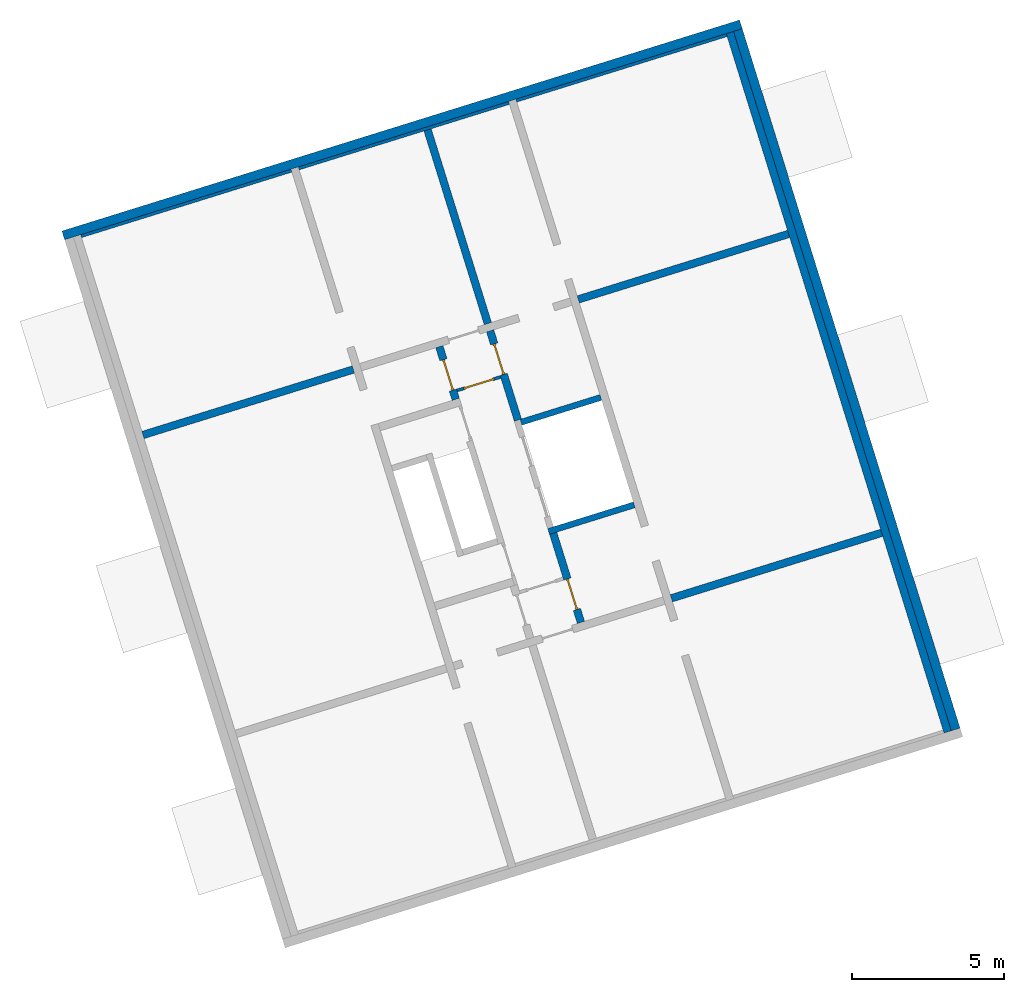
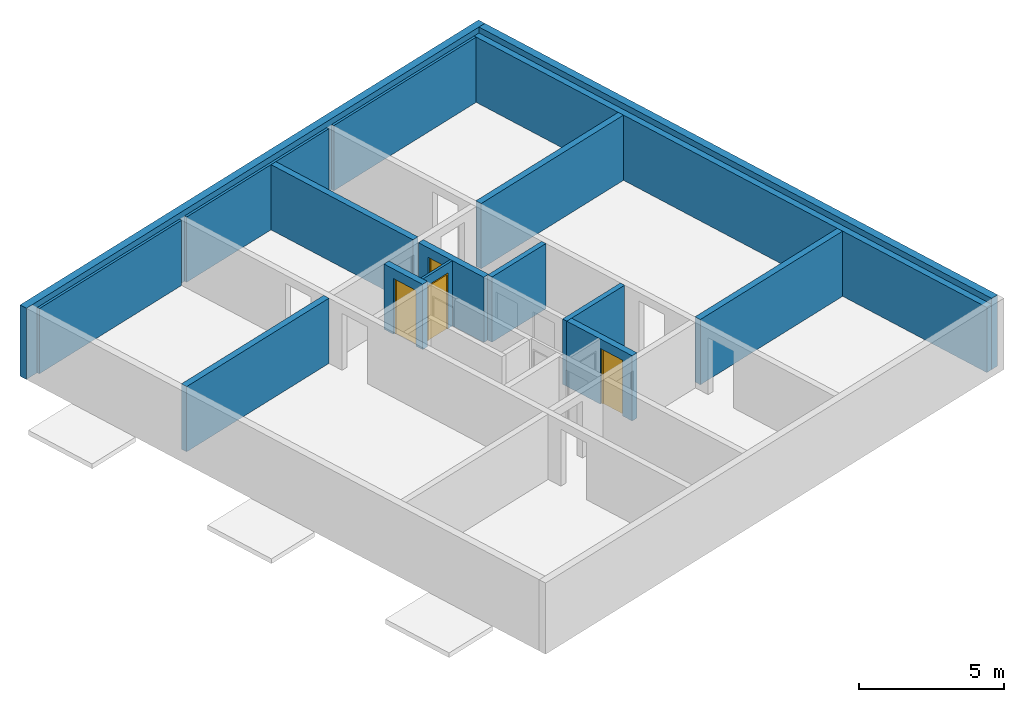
# One storey, part 2 of 3: 16 walls, 4 doors, 4 openings.
"""IFC4 building model written with IfcOpenShell, lengths in metres."""

from ifc_helpers import new_model, entity, si_unit, converted_unit, direction, frame, origin, place, context, subcontext, project, spatial, indexed_curve, outline, extrude, polygons, source, transform, mapped, material, constituent, constituent_set, type_object, type_shapes, element, fill, save


model = new_model("IFC4")

# Units and contexts
model_context = context("Model", 3, precision=1e-05, world=origin(), true_north=direction((6.12323399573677e-17, 1.0)))
body_context = subcontext(model_context, "Body", "Model", "MODEL_VIEW")
ifc_project = project(units=[si_unit("LENGTHUNIT", "METRE"), si_unit("AREAUNIT", "SQUARE_METRE"), si_unit("VOLUMEUNIT", "CUBIC_METRE"), converted_unit("PLANEANGLEUNIT", "DEGREE", entity("IfcPlaneAngleMeasure", 0.0174532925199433), si_unit("PLANEANGLEUNIT", "RADIAN"), dimensions=[0, 0, 0, 0, 0, 0, 0])], contexts=[model_context])

# Site, building, storey
site_placement = place(None, frame((13.1347999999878, 11.9886000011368, 0.0), z_axis=(0.0, 0.0, 1.0), x_axis=(0.954770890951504, 0.297342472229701, 0.0)))
site = spatial("IfcSite", under=ifc_project, at=site_placement, Name="Schiehaven", CompositionType="ELEMENT")
building_placement = place(site_placement, origin())
building = spatial("IfcBuilding", under=site, at=building_placement, Name="VORM huis", CompositionType="ELEMENT")
storey_placement = place(building_placement, frame((0.0, 0.0, 24.9)))
storey = spatial("IfcBuildingStorey", under=building, at=storey_placement, Name="08 achtste verdieping", CompositionType="ELEMENT", Elevation=24.9)

# Walls
ifc_material_1 = material(Name="beton_gewapend_ihw", Category="Miscellaneous")
wall_type_1 = type_object("IfcWallType", Name="Basic Wall:28_WA_skelet_wand 250mm_gen", PredefinedType="STANDARD")
wall_1_placement = place(storey_placement, frame((80.0, 5.0, 0.0), z_axis=(0.0, 0.0, 1.0), x_axis=(0.0, 1.0, 0.0)))
element("IfcWall", 1, at=wall_1_placement, inside=storey, type_object=wall_type_1, material=ifc_material_1, Name="Constructieve wand", ObjectType="Wand", PredefinedType="NOTDEFINED", context=body_context, shape_type="SweptSolid", body=[
    extrude(outline(indexed_curve([(24.1, 0.125000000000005), (1.84706995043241e-16, 0.125000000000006), (-1.84706995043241e-16, -0.125000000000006), (24.1, -0.125000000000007), (24.1, 0.125000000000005)], self_intersect=False)), origin(), (0.0, 0.0, 1.0), 2.75),
])
ifc_material_2 = material(Name="ntb_ntb_ntb", Category="Miscellaneous")
wall_type_2 = type_object("IfcWallType", Name="Basic Wall:21_WA_gevel_binnenspouwwand 100mm_gen", PredefinedType="STANDARD")
wall_2_placement = place(storey_placement, frame((79.8750000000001, 29.0499999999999, 0.0), z_axis=(0.0, 0.0, 1.0), x_axis=(-1.0, 0.0, 0.0)))
element("IfcWall", 2, at=wall_2_placement, inside=storey, type_object=wall_type_2, material=ifc_material_2, Name="Binnenspouwblad", ObjectType="Wand", PredefinedType="NOTDEFINED", context=body_context, shape_type="SweptSolid", body=[
    extrude(outline(indexed_curve([(7.24999999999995, 0.0500000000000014), (-2.83038752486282e-17, 0.0500000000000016), (2.83038752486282e-17, -0.0500000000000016), (7.24999999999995, -0.0500000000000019), (7.24999999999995, 0.0500000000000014)], self_intersect=False)), origin(), (0.0, 0.0, 1.0), 2.75),
])
wall_3_placement = place(storey_placement, frame((65.1250000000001, 29.0499999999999, 0.0)))
element("IfcWall", 3, at=wall_3_placement, inside=storey, type_object=wall_type_2, material=ifc_material_2, Name="Binnenspouwblad", ObjectType="Wand", PredefinedType="NOTDEFINED", context=body_context, shape_type="SweptSolid", body=[
    extrude(outline(indexed_curve([(7.24999999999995, 0.0500000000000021), (-1.82497125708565e-16, 0.0500000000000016), (1.82497125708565e-16, -0.0500000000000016), (7.24999999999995, -0.0500000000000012), (7.24999999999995, 0.0500000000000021)], self_intersect=False)), origin(), (0.0, 0.0, 1.0), 2.75),
])
wall_4_placement = place(storey_placement, frame((64.8750000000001, 29.0499999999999, 0.0), z_axis=(0.0, 0.0, 1.0), x_axis=(-1.0, 0.0, 0.0)))
element("IfcWall", 4, at=wall_4_placement, inside=storey, type_object=wall_type_2, material=ifc_material_2, Name="Binnenspouwblad", ObjectType="Wand", PredefinedType="NOTDEFINED", context=body_context, shape_type="SweptSolid", body=[
    extrude(outline(indexed_curve([(7.24999999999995, 0.0500000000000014), (-2.83038752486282e-17, 0.0500000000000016), (2.83038752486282e-17, -0.0500000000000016), (7.24999999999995, -0.0500000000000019), (7.24999999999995, 0.0500000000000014)], self_intersect=False)), origin(), (0.0, 0.0, 1.0), 2.75),
])
wall_type_3 = type_object("IfcWallType", Name="Basic Wall: 300mm_gen", PredefinedType="STANDARD")
wall_5_placement = place(storey_placement, frame((80.2750000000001, 5.0, 0.0), z_axis=(0.0, 0.0, 1.0), x_axis=(0.0, 1.0, 0.0)))
element("IfcWall", 5, at=wall_5_placement, inside=storey, type_object=wall_type_3, material=ifc_material_2, Name="Gevelwand", ObjectType="Wand", PredefinedType="NOTDEFINED", context=body_context, shape_type="SweptSolid", body=[
    extrude(outline(indexed_curve([(24.1, 0.150000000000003), (-2.29983128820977e-16, 0.150000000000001), (2.29983128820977e-16, -0.150000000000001), (24.1, -0.149999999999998), (24.1, 0.150000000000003)], self_intersect=False)), origin(), (0.0, 0.0, 1.0), 3.0),
])
wall_6_placement = place(storey_placement, frame((80.4250000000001, 29.2499999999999, 0.0), z_axis=(0.0, 0.0, 1.0), x_axis=(-1.0, 0.0, 0.0)))
element("IfcWall", 6, at=wall_6_placement, inside=storey, type_object=wall_type_3, material=ifc_material_2, Name="Gevelwand", ObjectType="Wand", PredefinedType="NOTDEFINED", context=body_context, shape_type="SweptSolid", body=[
    extrude(outline(indexed_curve([(23.35, 0.150000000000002), (-2.29983128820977e-16, 0.150000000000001), (2.29983128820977e-16, -0.150000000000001), (23.35, -0.149999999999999), (23.35, 0.150000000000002)], self_intersect=False)), origin(), (0.0, 0.0, 1.0), 3.0),
])
ifc_material_3 = material(Name="beton_gewapend_prefab-element", Category="Miscellaneous")
wall_type_4 = type_object("IfcWallType", Name="Basic Wall:28_WA_skelet_wand 200mm_gen", PredefinedType="STANDARD")
wall_7_placement = place(storey_placement, frame((72.3750000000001, 15.1999999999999, 0.0), z_axis=(0.0, 0.0, 1.0), x_axis=(-1.0, 0.0, 0.0)))
element("IfcWall", 7, at=wall_7_placement, inside=storey, type_object=wall_type_4, material=ifc_material_3, Name="Constructieve wand", ObjectType="Wand", PredefinedType="NOTDEFINED", context=body_context, shape_type="SweptSolid", body=[
    extrude(outline(indexed_curve([(2.95000000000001, 0.0999999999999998), (-2.97399835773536e-17, 0.0999999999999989), (2.97399835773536e-17, -0.0999999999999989), (2.95000000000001, -0.099999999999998), (2.95000000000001, 0.0999999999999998)], self_intersect=False)), origin(), (0.0, 0.0, 1.0), 2.75),
])
wall_8_placement = place(storey_placement, frame((69.6250000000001, 18.8999999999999, 0.0)))
element("IfcWall", 8, at=wall_8_placement, inside=storey, type_object=wall_type_4, material=ifc_material_3, Name="Constructieve wand", ObjectType="Wand", PredefinedType="NOTDEFINED", context=body_context, shape_type="SweptSolid", body=[
    extrude(outline(indexed_curve([(2.75, 0.0999999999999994), (-1.75746575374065e-16, 0.100000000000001), (1.75746575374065e-16, -0.100000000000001), (2.75, -0.100000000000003), (2.75, 0.0999999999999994)], self_intersect=False)), origin(), (0.0, 0.0, 1.0), 2.75),
])

# Wall, opening, door
wall_type_5 = type_object("IfcWallType", Name="Basic Wall:22_WA_afbouw_binnenwand 250mm_gen", PredefinedType="STANDARD")
wall_9_placement = place(storey_placement, frame((67.8000000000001, 20.2599999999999, 0.0), z_axis=(0.0, 0.0, 1.0), x_axis=(0.0, 1.0, 0.0)))
wall_9 = element("IfcWall", 9, at=wall_9_placement, inside=storey, type_object=wall_type_5, material=ifc_material_2, Name="Binnenwand", ObjectType="Wand", PredefinedType="NOTDEFINED", context=body_context, shape_type="Tessellation", body=[
    polygons([(0.0, -0.124999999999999, 0.0), (0.215000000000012, -0.125000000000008, 0.0), (0.315000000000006, -0.124999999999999, 0.0), (0.315000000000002, -0.124999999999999, 2.34999999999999), (1.36500000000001, -0.125000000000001, 2.34999999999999), (1.36500000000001, -0.125000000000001, 0.0), (1.81499999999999, -0.125000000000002, 0.0), (1.81499999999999, -0.125000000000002, 2.75), (0.315000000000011, -0.125000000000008, 2.75), (0.215000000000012, -0.125000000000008, 2.75), (0.0, -0.124999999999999, 2.75), (0.315000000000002, 0.124999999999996, 2.34999999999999), (0.315000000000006, 0.124999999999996, 0.0), (0.0, 0.124999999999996, 0.0), (0.0, 0.124999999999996, 2.75), (1.81499999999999, 0.124999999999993, 2.75), (1.81499999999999, 0.124999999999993, 0.0), (1.36500000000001, 0.124999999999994, 0.0), (1.36500000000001, 0.124999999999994, 2.34999999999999)], [[[1, 2, 3, 4, 5, 6, 7, 8, 9, 10, 11]], [[12, 13, 14, 15, 16, 17, 18, 19]], [[14, 13, 3, 2, 1]], [[8, 7, 17, 16]], [[11, 10, 9, 8, 16, 15]], [[1, 11, 15, 14]], [[6, 5, 19, 18]], [[4, 3, 13, 12]], [[5, 4, 12, 19]], [[18, 17, 7, 6]]], closed=True),
])
opening_1_placement = place(wall_9_placement, frame((1.36500000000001, 0.124999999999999, 0.0)))
opening_1 = element("IfcOpeningElement", 10, at=opening_1_placement, cuts=wall_9, Name="Woningtoegangsdeur", PredefinedType="OPENING", context=body_context, shape_type="SweptSolid", body=[
    extrude(outline(indexed_curve([(2.34999999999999, 3.29504974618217e-30), (2.34999999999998, 1.05), (0.0, 1.05), (2.16573425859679e-15, 3.29504974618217e-30), (2.34999999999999, 3.29504974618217e-30)], self_intersect=False)), frame((0.0, 0.0, 0.0), z_axis=(0.0, -1.0, 0.0), x_axis=(0.0, 0.0, 1.0)), (0.0, 0.0, 1.0), 0.25),
])
ifc_material_4 = material(Name="PD_a_binnenwandopeningen", Category="Miscellaneous")
ifc_constituent_1 = constituent(ifc_material_4, Name="PD_a_binnenwandopeningen", Category="Miscellaneous")
ifc_material_5 = material(Name="metaal_aluminium_ntb", Category="Miscellaneous")
ifc_constituent_2 = constituent(ifc_material_5, Name="metaal_aluminium_ntb", Category="Miscellaneous")
ifc_constituent_set_1 = constituent_set(constituents=[ifc_constituent_1, ifc_constituent_2])
ifc_constituent_3 = constituent(ifc_material_4, Name="PD_a_binnenwandopeningen", Category="Miscellaneous")
ifc_constituent_4 = constituent(ifc_material_5, Name="Panel", Category="Miscellaneous")
ifc_constituent_set_2 = constituent_set(constituents=[ifc_constituent_3, ifc_constituent_4])
door_type_1 = type_object("IfcDoorType", Name="32_DO_binnendeur enkel:woningtoegangsdeur", OperationType="REVOLVING", PredefinedType="DOOR", material=ifc_constituent_set_2)
shared_shape_1 = source(origin(), body_context, "Body", "SweptSolid", [
    extrude(outline(indexed_curve([(0.475, -1.16249999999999), (0.525000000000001, -1.16249999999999), (0.525000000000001, 1.18749999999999), (-0.525000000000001, 1.18749999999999), (-0.525000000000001, -1.16249999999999), (-0.475, -1.16249999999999), (-0.475, 1.13749999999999), (0.475, 1.13749999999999), (0.475, -1.16249999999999)], self_intersect=False)), frame((0.525000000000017, 0.174999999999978, 1.16249999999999), z_axis=(0.0, -1.0, 0.0), x_axis=(1.0, 0.0, 0.0)), (0.0, 0.0, 1.0), 0.1),
    extrude(outline(indexed_curve([(-0.475, -0.025), (0.475, -0.025), (0.475, 0.025), (-0.475, 0.025), (-0.475, -0.025)], self_intersect=False)), frame((0.525000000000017, 0.12499999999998, 0.0)), (0.0, 0.0, 1.0), 2.29999999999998),
])
type_shapes(door_type_1, [shared_shape_1])
door_1_placement = place(opening_1_placement, frame((0.0, 0.0, 0.0), z_axis=(0.0, 0.0, 1.0), x_axis=(-1.0, 0.0, 0.0)))
door_1 = element("IfcDoor", 11, at=door_1_placement, inside=storey, type_object=door_type_1, material=ifc_constituent_set_1, Name="Woningtoegangsdeur", ObjectType="Deur", OperationType="REVOLVING", OverallHeight=2.34999999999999, OverallWidth=1.05, PredefinedType="DOOR", context=body_context, shape_type="MappedRepresentation", body=[
    mapped(shared_shape_1, transform((0.0, 0.0, 0.0), scale=1.0)),
])
fill(opening_1, door_1)

wall_10_placement = place(storey_placement, frame((69.5500000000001, 19.0, 0.0), z_axis=(0.0, 0.0, 1.0), x_axis=(0.0, 1.0, 0.0)))
wall_10 = element("IfcWall", 12, at=wall_10_placement, inside=storey, type_object=wall_type_5, material=ifc_material_2, Name="Binnenwand", ObjectType="Wand", PredefinedType="NOTDEFINED", context=body_context, shape_type="Tessellation", body=[
    polygons([(2.62500000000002, -0.125000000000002, 2.34999999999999), (2.62500000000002, -0.125000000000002, 0.0), (3.07499999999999, -0.125000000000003, 0.0), (3.07499999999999, -0.125000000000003, 2.75), (2.16573425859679e-15, -0.125000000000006, 2.75), (2.16573425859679e-15, -0.125000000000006, 0.0), (1.57500000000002, -0.125, 0.0), (1.57500000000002, -0.125, 2.34999999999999), (3.075, 0.125000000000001, 0.0), (2.62500000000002, 0.125000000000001, 0.0), (2.62500000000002, 0.125000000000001, 2.34999999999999), (1.57500000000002, 0.125000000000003, 2.34999999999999), (1.57500000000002, 0.125000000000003, 0.0), (1.475, 0.125000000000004, 0.0), (4.33146851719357e-15, 0.125000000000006, 0.0), (4.33146851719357e-15, 0.125000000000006, 2.75), (1.475, 0.125000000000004, 2.75), (1.575, 0.125000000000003, 2.75), (3.075, 0.125000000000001, 2.75)], [[[1, 2, 3, 4, 5, 6, 7, 8]], [[9, 10, 11, 12, 13, 14, 15, 16, 17, 18, 19]], [[7, 6, 15, 14, 13]], [[4, 3, 9, 19]], [[5, 4, 19, 18, 17, 16]], [[6, 5, 16, 15]], [[13, 12, 8, 7]], [[11, 10, 2, 1]], [[12, 11, 1, 8]], [[3, 2, 10, 9]]], closed=True),
])
opening_2_placement = place(wall_10_placement, frame((1.57499999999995, -0.124999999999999, 0.0)))
opening_2 = element("IfcOpeningElement", 13, at=opening_2_placement, cuts=wall_10, Name="Woningtoegangsdeur", PredefinedType="OPENING", context=body_context, shape_type="SweptSolid", body=[
    extrude(outline(indexed_curve([(2.34999999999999, 3.4855615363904e-30), (2.34999999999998, 1.05), (0.0, 1.05), (2.16573425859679e-15, 3.4855615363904e-30), (2.34999999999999, 3.4855615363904e-30)], self_intersect=False)), frame((0.0, 0.0, 0.0), z_axis=(0.0, 1.0, 0.0), x_axis=(0.0, 0.0, 1.0)), (0.0, 0.0, 1.0), 0.25),
])
ifc_constituent_5 = constituent(ifc_material_4, Name="PD_a_binnenwandopeningen", Category="Miscellaneous")
ifc_constituent_6 = constituent(ifc_material_5, Name="metaal_aluminium_ntb", Category="Miscellaneous")
ifc_constituent_set_3 = constituent_set(constituents=[ifc_constituent_5, ifc_constituent_6])
door_2_placement = place(opening_2_placement, origin())
door_2 = element("IfcDoor", 14, at=door_2_placement, inside=storey, type_object=door_type_1, material=ifc_constituent_set_3, Name="Woningtoegangsdeur", ObjectType="Deur", OperationType="REVOLVING", OverallHeight=2.34999999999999, OverallWidth=1.05, PredefinedType="DOOR", context=body_context, shape_type="MappedRepresentation", body=[
    mapped(shared_shape_1, transform((0.0, 0.0, 0.0), scale=1.0)),
])
fill(opening_2, door_2)

# Walls
wall_11_placement = place(storey_placement, frame((72.6250000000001, 22.1999999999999, 0.0)))
element("IfcWall", 15, at=wall_11_placement, inside=storey, type_object=wall_type_5, material=ifc_material_2, Name="Binnenwand", ObjectType="Wand", PredefinedType="NOTDEFINED", context=body_context, shape_type="SweptSolid", body=[
    extrude(outline(indexed_curve([(7.24999999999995, 0.125000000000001), (2.00742282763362e-17, 0.125000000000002), (-2.00742282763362e-17, -0.125000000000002), (7.24999999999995, -0.125000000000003), (7.24999999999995, 0.125000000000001)], self_intersect=False)), origin(), (0.0, 0.0, 1.0), 2.75),
])
wall_12_placement = place(storey_placement, frame((69.5500000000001, 22.3249999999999, 0.0), z_axis=(0.0, 0.0, 1.0), x_axis=(0.0, 1.0, 0.0)))
element("IfcWall", 16, at=wall_12_placement, inside=storey, type_object=wall_type_5, material=ifc_material_2, Name="Binnenwand", ObjectType="Wand", PredefinedType="NOTDEFINED", context=body_context, shape_type="SweptSolid", body=[
    extrude(outline(indexed_curve([(6.67500000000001, 0.124999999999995), (2.13043668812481e-16, 0.124999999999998), (-2.13043668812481e-16, -0.124999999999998), (6.67500000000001, -0.125), (6.67500000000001, 0.124999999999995)], self_intersect=False)), origin(), (0.0, 0.0, 1.0), 2.75),
])
wall_13_placement = place(storey_placement, frame((64.8750000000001, 22.1999999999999, 0.0), z_axis=(0.0, 0.0, 1.0), x_axis=(-1.0, 0.0, 0.0)))
element("IfcWall", 17, at=wall_13_placement, inside=storey, type_object=wall_type_5, material=ifc_material_2, Name="Binnenwand", ObjectType="Wand", PredefinedType="NOTDEFINED", context=body_context, shape_type="SweptSolid", body=[
    extrude(outline(indexed_curve([(7.24999999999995, 0.125000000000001), (-2.84367080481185e-16, 0.125000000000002), (2.84367080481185e-16, -0.125000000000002), (7.24999999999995, -0.125000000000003), (7.24999999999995, 0.125000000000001)], self_intersect=False)), origin(), (0.0, 0.0, 1.0), 2.75),
])
wall_14_placement = place(storey_placement, frame((72.6250000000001, 11.8999999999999, 0.0)))
element("IfcWall", 18, at=wall_14_placement, inside=storey, type_object=wall_type_5, material=ifc_material_2, Name="Binnenwand", ObjectType="Wand", PredefinedType="NOTDEFINED", context=body_context, shape_type="SweptSolid", body=[
    extrude(outline(indexed_curve([(7.24999999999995, 0.125000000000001), (-2.79648850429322e-16, 0.125), (2.79648850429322e-16, -0.125), (7.24999999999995, -0.124999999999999), (7.24999999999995, 0.125000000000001)], self_intersect=False)), origin(), (0.0, 0.0, 1.0), 2.75),
])

# Wall, opening, door
wall_15_placement = place(storey_placement, frame((69.5500000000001, 15.0999999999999, 0.0), z_axis=(0.0, 0.0, 1.0), x_axis=(0.0, -1.0, 0.0)))
wall_15 = element("IfcWall", 19, at=wall_15_placement, inside=storey, type_object=wall_type_5, material=ifc_material_2, Name="Binnenwand", ObjectType="Wand", PredefinedType="NOTDEFINED", context=body_context, shape_type="Tessellation", body=[
    polygons([(2.62500000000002, -0.125000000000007, 2.34999999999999), (2.62500000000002, -0.125000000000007, 0.0), (3.07499999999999, -0.125000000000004, 0.0), (3.07499999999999, -0.125000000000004, 2.75), (1.575, -0.125000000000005, 2.75), (1.475, -0.125000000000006, 2.75), (0.0, -0.125000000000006, 2.75), (0.0, -0.125000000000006, 0.0), (1.475, -0.125000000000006, 0.0), (1.57500000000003, -0.125000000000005, 0.0), (1.57500000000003, -0.125000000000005, 2.34999999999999), (3.075, 0.124999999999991, 0.0), (2.62500000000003, 0.124999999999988, 0.0), (2.62500000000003, 0.124999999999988, 2.34999999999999), (1.57500000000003, 0.124999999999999, 2.34999999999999), (1.57500000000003, 0.124999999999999, 0.0), (2.16573425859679e-15, 0.124999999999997, 0.0), (2.16573425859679e-15, 0.124999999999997, 2.75), (3.075, 0.124999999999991, 2.75)], [[[1, 2, 3, 4, 5, 6, 7, 8, 9, 10, 11]], [[12, 13, 14, 15, 16, 17, 18, 19]], [[10, 9, 8, 17, 16]], [[4, 3, 12, 19]], [[7, 6, 5, 4, 19, 18]], [[8, 7, 18, 17]], [[16, 15, 11, 10]], [[14, 13, 2, 1]], [[15, 14, 1, 11]], [[3, 2, 13, 12]]], closed=True),
])
opening_3_placement = place(wall_15_placement, frame((2.62500000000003, 0.124999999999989, 0.0)))
opening_3 = element("IfcOpeningElement", 20, at=opening_3_placement, cuts=wall_15, Name="Woningtoegangsdeur", PredefinedType="OPENING", context=body_context, shape_type="SweptSolid", body=[
    extrude(outline(indexed_curve([(2.34999999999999, 1.05), (0.0, 1.05), (0.0, 1.08286712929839e-15), (2.34999999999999, 1.08286712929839e-15), (2.34999999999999, 1.05)], self_intersect=False)), frame((0.0, 0.0, 0.0), z_axis=(0.0, -1.0, 0.0), x_axis=(0.0, 0.0, 1.0)), (0.0, 0.0, 1.0), 0.25),
])
ifc_constituent_7 = constituent(ifc_material_4, Name="PD_a_binnenwandopeningen", Category="Miscellaneous")
ifc_constituent_8 = constituent(ifc_material_5, Name="metaal_aluminium_ntb", Category="Miscellaneous")
ifc_constituent_set_4 = constituent_set(constituents=[ifc_constituent_7, ifc_constituent_8])
ifc_constituent_9 = constituent(ifc_material_4, Name="PD_a_binnenwandopeningen", Category="Miscellaneous")
ifc_constituent_10 = constituent(ifc_material_5, Name="Panel", Category="Miscellaneous")
ifc_constituent_set_5 = constituent_set(constituents=[ifc_constituent_9, ifc_constituent_10])
door_type_2 = type_object("IfcDoorType", Name="32_DO_binnendeur enkel:woningtoegangsdeur", OperationType="REVOLVING", PredefinedType="DOOR", material=ifc_constituent_set_5)
shared_shape_2 = source(origin(), body_context, "Body", "SweptSolid", [
    extrude(outline(indexed_curve([(-1.16249999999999, -0.525000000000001), (1.18749999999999, -0.525), (1.18749999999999, 0.525000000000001), (-1.16249999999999, 0.525000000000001), (-1.16249999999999, 0.475), (1.13749999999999, 0.475), (1.13749999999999, -0.475), (-1.16249999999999, -0.475), (-1.16249999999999, -0.525000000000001)], self_intersect=False)), frame((0.525000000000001, 0.0749999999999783, 1.16249999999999), z_axis=(0.0, 1.0, 0.0), x_axis=(0.0, 0.0, 1.0)), (0.0, 0.0, 1.0), 0.1),
    extrude(outline(indexed_curve([(-0.025, -0.475), (0.025, -0.475), (0.025, 0.475), (-0.025, 0.475), (-0.025, -0.475)], self_intersect=False)), frame((0.525000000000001, 0.12499999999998, 0.0), z_axis=(0.0, 0.0, 1.0), x_axis=(0.0, 1.0, 0.0)), (0.0, 0.0, 1.0), 2.29999999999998),
])
type_shapes(door_type_2, [shared_shape_2])
door_3_placement = place(opening_3_placement, frame((0.0, 0.0, 0.0), z_axis=(0.0, 0.0, 1.0), x_axis=(-1.0, 0.0, 0.0)))
door_3 = element("IfcDoor", 21, at=door_3_placement, inside=storey, type_object=door_type_2, material=ifc_constituent_set_4, Name="Woningtoegangsdeur", ObjectType="Deur", OperationType="REVOLVING", OverallHeight=2.34999999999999, OverallWidth=1.05, PredefinedType="DOOR", context=body_context, shape_type="MappedRepresentation", body=[
    mapped(shared_shape_2, transform((0.0, 0.0, 0.0), scale=1.0)),
])
fill(opening_3, door_3)

wall_type_6 = type_object("IfcWallType", Name="Basic Wall:22_WA_afbouw_binnenwand 100mm_gen", PredefinedType="STANDARD")
wall_16_placement = place(storey_placement, frame((67.9250000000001, 20.5249999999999, 0.0)))
wall_16 = element("IfcWall", 22, at=wall_16_placement, inside=storey, type_object=wall_type_6, material=ifc_material_2, Name="Binnenwand", ObjectType="Wand", PredefinedType="NOTDEFINED", context=body_context, shape_type="Tessellation", body=[
    polygons([(1.49999999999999, -0.0499999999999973, 2.75), (-1.22207551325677e-14, -0.0499999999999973, 2.75), (-1.22207551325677e-14, -0.0499999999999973, 0.0), (0.22499999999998, -0.0500000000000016, 0.0), (0.22499999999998, -0.0500000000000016, 2.34999999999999), (1.27499999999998, -0.0500000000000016, 2.34999999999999), (1.27499999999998, -0.0500000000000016, 0.0), (1.49999999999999, -0.0499999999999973, 0.0), (-1.26612298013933e-14, 0.0500000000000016, 2.75), (1.49999999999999, 0.0500000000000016, 2.75), (1.49999999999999, 0.0500000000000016, 2.34999999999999), (1.49999999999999, 0.0500000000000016, 0.0), (1.27499999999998, 0.0499999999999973, 0.0), (1.27499999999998, 0.0499999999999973, 2.34999999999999), (0.22499999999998, 0.0499999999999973, 2.34999999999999), (0.22499999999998, 0.0499999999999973, 0.0), (-1.26612298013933e-14, 0.0500000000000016, 0.0), (-3.99829276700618e-15, 0.0500000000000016, 2.34999999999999)], [[[1, 2, 3, 4, 5, 6, 7, 8]], [[9, 10, 11, 12, 13, 14, 15, 16, 17, 18]], [[3, 17, 16, 4]], [[2, 1, 10, 9]], [[15, 5, 4, 16]], [[5, 15, 14, 6]], [[6, 14, 13, 7]], [[3, 2, 9, 18, 17]], [[1, 8, 12, 11, 10]], [[12, 8, 7, 13]]], closed=True),
])
opening_4_placement = place(wall_16_placement, frame((1.275, 0.049999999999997, 0.0)))
opening_4 = element("IfcOpeningElement", 23, at=opening_4_placement, cuts=wall_16, Name="Vluchtdeur", PredefinedType="OPENING", context=body_context, shape_type="SweptSolid", body=[
    extrude(outline(indexed_curve([(2.34999999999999, -1.7774791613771e-29), (2.34999999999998, 1.05), (0.0, 1.05), (2.16573425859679e-15, -1.7774791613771e-29), (2.34999999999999, -1.7774791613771e-29)], self_intersect=False)), frame((0.0, 0.0, 0.0), z_axis=(0.0, -1.0, 0.0), x_axis=(0.0, 0.0, 1.0)), (0.0, 0.0, 1.0), 0.1),
])
ifc_constituent_11 = constituent(ifc_material_4, Name="PD_a_binnenwandopeningen", Category="Miscellaneous")
ifc_constituent_12 = constituent(ifc_material_5, Name="metaal_aluminium_ntb", Category="Miscellaneous")
ifc_constituent_set_6 = constituent_set(constituents=[ifc_constituent_11, ifc_constituent_12])
ifc_constituent_13 = constituent(ifc_material_4, Name="PD_a_binnenwandopeningen", Category="Miscellaneous")
ifc_constituent_14 = constituent(ifc_material_5, Name="Panel", Category="Miscellaneous")
ifc_constituent_set_7 = constituent_set(constituents=[ifc_constituent_13, ifc_constituent_14])
door_type_3 = type_object("IfcDoorType", Name="32_DO_binnendeur enkel:binnendeur zelfsluitend 30min", OperationType="NOTDEFINED", PredefinedType="DOOR", material=ifc_constituent_set_7)
shared_shape_3 = source(origin(), body_context, "Body", "SweptSolid", [
    extrude(outline(indexed_curve([(0.475, -1.16249999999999), (0.525, -1.16249999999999), (0.525, 1.18749999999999), (-0.525, 1.18749999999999), (-0.525, -1.16249999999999), (-0.475, -1.16249999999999), (-0.475, 1.13749999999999), (0.475, 1.13749999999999), (0.475, -1.16249999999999)], self_intersect=False)), frame((0.525000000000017, 0.100000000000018, 1.16249999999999), z_axis=(0.0, -1.0, 0.0), x_axis=(1.0, 0.0, 0.0)), (0.0, 0.0, 1.0), 0.1),
    extrude(outline(indexed_curve([(-0.475, -0.025), (0.475, -0.025), (0.475, 0.025), (-0.475, 0.025), (-0.475, -0.025)], self_intersect=False)), frame((0.525000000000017, 0.0499999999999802, 0.0)), (0.0, 0.0, 1.0), 2.29999999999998),
])
type_shapes(door_type_3, [shared_shape_3])
door_4_placement = place(opening_4_placement, frame((0.0, 0.0, 0.0), z_axis=(0.0, 0.0, 1.0), x_axis=(-1.0, 0.0, 0.0)))
door_4 = element("IfcDoor", 24, at=door_4_placement, inside=storey, type_object=door_type_3, material=ifc_constituent_set_6, Name="Vluchtdeur", ObjectType="Deur", OperationType="NOTDEFINED", OverallHeight=2.34999999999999, OverallWidth=1.05, PredefinedType="DOOR", context=body_context, shape_type="MappedRepresentation", body=[
    mapped(shared_shape_3, transform((0.0, 0.0, 0.0), scale=1.0)),
])
fill(opening_4, door_4)

save(model, "model.ifc")
